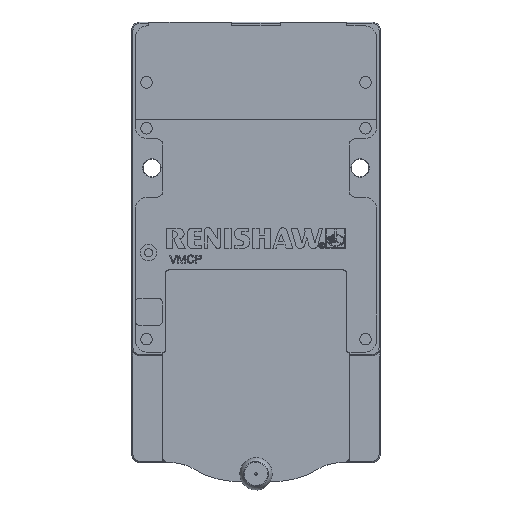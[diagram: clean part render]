
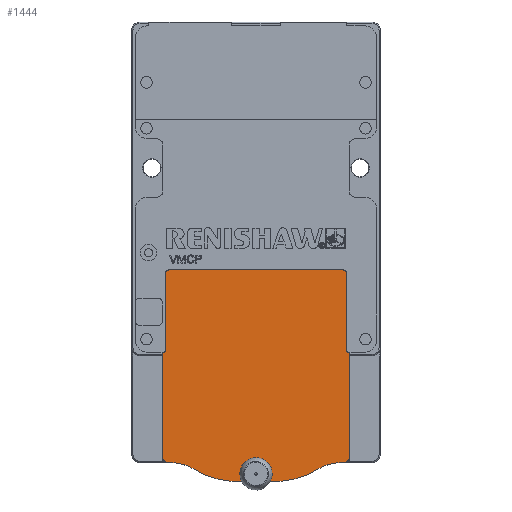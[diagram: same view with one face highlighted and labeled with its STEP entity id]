
A CAD part, top view. The second image highlights one B-rep face of the part: STEP entity #1444.
In plain terms, the highlighted planar face has unit normal (0, 0, 1).
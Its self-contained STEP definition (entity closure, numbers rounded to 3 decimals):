
#920=FACE_BOUND('',#2173,.T.);
#921=FACE_BOUND('',#2174,.T.);
#1180=CIRCLE('',#6808,8.2);
#1181=CIRCLE('',#6809,2.);
#1182=CIRCLE('',#6810,15.);
#1183=CIRCLE('',#6811,32.071);
#1184=CIRCLE('',#6812,32.071);
#1185=CIRCLE('',#6813,15.);
#1186=CIRCLE('',#6814,2.);
#1187=CIRCLE('',#6815,8.2);
#1188=CIRCLE('',#6816,2.8);
#1444=ADVANCED_FACE('',(#920,#921),#1643,.T.);
#1643=PLANE('',#6817);
#2173=EDGE_LOOP('',(#3682,#3683,#3684,#3685,#3686,#3687,#3688,#3689,#3690,
#3691,#3692,#3693,#3694,#3695));
#2174=EDGE_LOOP('',(#3696));
#3682=ORIENTED_EDGE('',*,*,#5217,.F.);
#3683=ORIENTED_EDGE('',*,*,#5218,.T.);
#3684=ORIENTED_EDGE('',*,*,#5219,.F.);
#3685=ORIENTED_EDGE('',*,*,#5220,.T.);
#3686=ORIENTED_EDGE('',*,*,#5221,.T.);
#3687=ORIENTED_EDGE('',*,*,#5222,.T.);
#3688=ORIENTED_EDGE('',*,*,#5223,.F.);
#3689=ORIENTED_EDGE('',*,*,#5224,.F.);
#3690=ORIENTED_EDGE('',*,*,#5225,.T.);
#3691=ORIENTED_EDGE('',*,*,#5226,.T.);
#3692=ORIENTED_EDGE('',*,*,#5227,.F.);
#3693=ORIENTED_EDGE('',*,*,#5228,.T.);
#3694=ORIENTED_EDGE('',*,*,#5215,.F.);
#3695=ORIENTED_EDGE('',*,*,#5229,.T.);
#3696=ORIENTED_EDGE('',*,*,#5230,.F.);
#4431=VERTEX_POINT('',#10189);
#4432=VERTEX_POINT('',#10191);
#4433=VERTEX_POINT('',#10195);
#4434=VERTEX_POINT('',#10196);
#4435=VERTEX_POINT('',#10198);
#4436=VERTEX_POINT('',#10200);
#4437=VERTEX_POINT('',#10202);
#4438=VERTEX_POINT('',#10204);
#4439=VERTEX_POINT('',#10206);
#4440=VERTEX_POINT('',#10208);
#4441=VERTEX_POINT('',#10210);
#4442=VERTEX_POINT('',#10212);
#4443=VERTEX_POINT('',#10214);
#4444=VERTEX_POINT('',#10216);
#4445=VERTEX_POINT('',#10220);
#5215=EDGE_CURVE('',#4431,#4432,#5792,.T.);
#5217=EDGE_CURVE('',#4433,#4434,#5794,.T.);
#5218=EDGE_CURVE('',#4433,#4435,#1180,.T.);
#5219=EDGE_CURVE('',#4436,#4435,#5795,.T.);
#5220=EDGE_CURVE('',#4436,#4437,#1181,.T.);
#5221=EDGE_CURVE('',#4437,#4438,#5796,.T.);
#5222=EDGE_CURVE('',#4438,#4439,#1182,.T.);
#5223=EDGE_CURVE('',#4440,#4439,#1183,.T.);
#5224=EDGE_CURVE('',#4441,#4440,#5797,.T.);
#5225=EDGE_CURVE('',#4441,#4442,#1184,.T.);
#5226=EDGE_CURVE('',#4442,#4443,#1185,.T.);
#5227=EDGE_CURVE('',#4444,#4443,#5798,.T.);
#5228=EDGE_CURVE('',#4444,#4432,#1186,.T.);
#5229=EDGE_CURVE('',#4431,#4434,#1187,.T.);
#5230=EDGE_CURVE('',#4445,#4445,#1188,.T.);
#5792=LINE('',#10190,#6329);
#5794=LINE('',#10194,#6331);
#5795=LINE('',#10199,#6332);
#5796=LINE('',#10203,#6333);
#5797=LINE('',#10209,#6334);
#5798=LINE('',#10215,#6335);
#6329=VECTOR('',#8275,1.);
#6331=VECTOR('',#8279,1.);
#6332=VECTOR('',#8282,1.);
#6333=VECTOR('',#8285,1.);
#6334=VECTOR('',#8290,1.);
#6335=VECTOR('',#8295,1.);
#6808=AXIS2_PLACEMENT_3D('',#10197,#8280,#8281);
#6809=AXIS2_PLACEMENT_3D('',#10201,#8283,#8284);
#6810=AXIS2_PLACEMENT_3D('',#10205,#8286,#8287);
#6811=AXIS2_PLACEMENT_3D('',#10207,#8288,#8289);
#6812=AXIS2_PLACEMENT_3D('',#10211,#8291,#8292);
#6813=AXIS2_PLACEMENT_3D('',#10213,#8293,#8294);
#6814=AXIS2_PLACEMENT_3D('',#10217,#8296,#8297);
#6815=AXIS2_PLACEMENT_3D('',#10218,#8298,#8299);
#6816=AXIS2_PLACEMENT_3D('',#10219,#8300,#8301);
#6817=AXIS2_PLACEMENT_3D('',#10221,#8302,#8303);
#8275=DIRECTION('',(0.,-1.,0.));
#8279=DIRECTION('',(1.,0.,0.));
#8280=DIRECTION('',(0.,0.,1.));
#8281=DIRECTION('',(1.,0.,0.));
#8282=DIRECTION('',(0.,1.,0.));
#8283=DIRECTION('',(0.,0.,1.));
#8284=DIRECTION('',(1.,0.,0.));
#8285=DIRECTION('',(1.,0.,0.));
#8286=DIRECTION('',(0.,0.,-1.));
#8287=DIRECTION('',(1.,0.,0.));
#8288=DIRECTION('',(0.,0.,-1.));
#8289=DIRECTION('',(-1.,0.,0.));
#8290=DIRECTION('',(-1.,0.,0.));
#8291=DIRECTION('',(0.,0.,1.));
#8292=DIRECTION('',(1.,0.,0.));
#8293=DIRECTION('',(0.,0.,-1.));
#8294=DIRECTION('',(1.,0.,0.));
#8295=DIRECTION('',(-1.,0.,0.));
#8296=DIRECTION('',(0.,0.,1.));
#8297=DIRECTION('',(1.,0.,0.));
#8298=DIRECTION('',(0.,0.,1.));
#8299=DIRECTION('',(1.,0.,0.));
#8300=DIRECTION('',(0.,0.,1.));
#8301=DIRECTION('',(1.,0.,0.));
#8302=DIRECTION('',(0.,0.,1.));
#8303=DIRECTION('',(1.,0.,0.));
#10189=CARTESIAN_POINT('',(34.45,55.8,6.15));
#10190=CARTESIAN_POINT('',(34.45,16.,6.15));
#10191=CARTESIAN_POINT('',(34.45,-23.,6.15));
#10194=CARTESIAN_POINT('',(-34.45,64.,6.15));
#10195=CARTESIAN_POINT('',(-26.25,64.,6.15));
#10196=CARTESIAN_POINT('',(26.25,64.,6.15));
#10197=CARTESIAN_POINT('',(-26.25,55.8,6.15));
#10198=CARTESIAN_POINT('',(-34.45,55.8,6.15));
#10199=CARTESIAN_POINT('',(-34.45,16.,6.15));
#10200=CARTESIAN_POINT('',(-34.45,-23.,6.15));
#10201=CARTESIAN_POINT('',(-32.45,-23.,6.15));
#10202=CARTESIAN_POINT('',(-32.45,-25.,6.15));
#10203=CARTESIAN_POINT('',(-34.45,-25.,6.15));
#10204=CARTESIAN_POINT('',(-31.148,-25.,6.15));
#10205=CARTESIAN_POINT('',(-31.148,-40.,6.15));
#10206=CARTESIAN_POINT('',(-23.278,-27.231,6.15));
#10207=CARTESIAN_POINT('',(-6.45,0.071,6.15));
#10208=CARTESIAN_POINT('',(-6.45,-32.,6.15));
#10209=CARTESIAN_POINT('',(0.,-32.,6.15));
#10210=CARTESIAN_POINT('',(6.45,-32.,6.15));
#10211=CARTESIAN_POINT('',(6.45,0.071,6.15));
#10212=CARTESIAN_POINT('',(23.278,-27.231,6.15));
#10213=CARTESIAN_POINT('',(31.148,-40.,6.15));
#10214=CARTESIAN_POINT('',(31.148,-25.,6.15));
#10215=CARTESIAN_POINT('',(34.45,-25.,6.15));
#10216=CARTESIAN_POINT('',(32.45,-25.,6.15));
#10217=CARTESIAN_POINT('',(32.45,-23.,6.15));
#10218=CARTESIAN_POINT('',(26.25,55.8,6.15));
#10219=CARTESIAN_POINT('',(0.,-29.15,6.15));
#10220=CARTESIAN_POINT('',(2.8,-29.15,6.15));
#10221=CARTESIAN_POINT('',(0.,16.,6.15));
